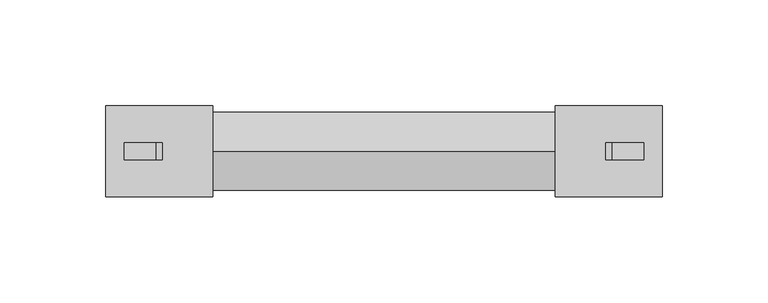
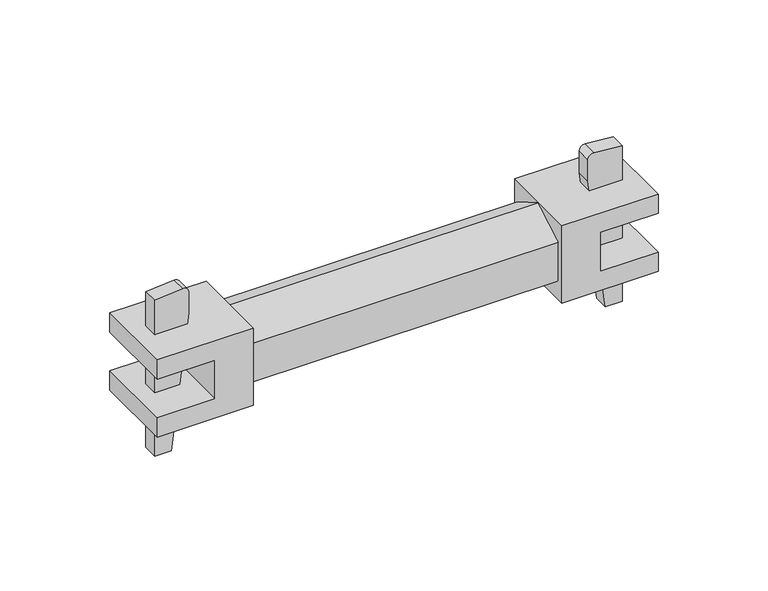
"""IFC4 building model written with IfcOpenShell, lengths in millimetres: proxy geometry, AK_アルバトロスＡＫ布材L=300_軽 : AK_アルバトロスＡＫ布材L=300_軽."""

from ifc_helpers import new_model, si_unit, point, frame, frame_2d, origin, place, context, project, spatial, polyline, circle_curve, trimmed, segment, composite_curve, outline, extrude, source, transform, mapped, element, save


def generic_models_185ff827(model_context):
    return source(origin(), model_context, "Body", "SweptSolid", [
        extrude(outline(polyline([(-10.75, 18.5592), (-21.5, 18.5592), (-21.5, 69.0), (21.5, 69.0), (21.5, 18.5592), (10.75, 18.5592), (10.75, 48.8), (-10.75, 48.8), (-10.75, 18.5592)])), frame((0.0, -21.5, 0.0), z_axis=(0.0, 1.0, 0.0), x_axis=(0.0, 0.0, 1.0)), (0.0, 0.0, 1.0), 43.0),
        extrude(outline(composite_curve([segment(trimmed(circle_curve(frame_2d((39.0692, 42.3)), 3.0), [point((39.0692, 45.3))], [point((42.0590201, 42.0530676))], False, "CARTESIAN"), True, "CONTINUOUS"), segment(polyline([(42.0590201, 42.0530676), (40.7682926, 27.3), (-45.68165, 27.3), (-45.68165, 36.0388248), (27.3200065, 45.3), (39.0692, 45.3)]), True, "CONTINUOUS")], self_intersect=False)), frame((0.0, -4.0, 0.0), z_axis=(0.0, 1.0, 0.0), x_axis=(0.0, 0.0, 1.0)), (0.0, 0.0, 1.0), 8.0),
        extrude(outline(polyline([(-10.75, 281.4408), (-10.75, 251.2), (10.75, 251.2), (10.75, 281.4408), (21.5, 281.4408), (21.5, 231.0), (-21.5, 231.0), (-21.5, 281.4408), (-10.75, 281.4408)])), frame((0.0, -21.5, 0.0), z_axis=(0.0, 1.0, 0.0), x_axis=(0.0, 0.0, 1.0)), (0.0, 0.0, 1.0), 43.0),
        extrude(outline(composite_curve([segment(polyline([(39.0692, 254.7), (27.3200065, 254.7), (-45.68165, 263.9611752), (-45.68165, 272.7), (40.7682926, 272.7), (42.0590201, 257.9469324)]), True, "CONTINUOUS"), segment(trimmed(circle_curve(frame_2d((39.0692, 257.7)), 3.0), [point((42.0590201, 257.9469324))], [point((39.0692, 254.7))], False, "CARTESIAN"), True, "CONTINUOUS")], self_intersect=False)), frame((0.0, -4.0, 0.0), z_axis=(0.0, 1.0, 0.0), x_axis=(0.0, 0.0, 1.0)), (0.0, 0.0, 1.0), 8.0),
        extrude(outline(polyline([(-18.4896424, 10.675), (0.0, 21.35), (18.4896424, 10.675), (18.4896424, -10.675), (0.0, -21.35), (-18.4896424, -10.675), (-18.4896424, 10.675)])), frame((69.0, 0.0, 0.0), z_axis=(1.0, 0.0, 0.0), x_axis=(0.0, 1.0, 0.0)), (0.0, 0.0, 1.0), 162.0),
    ])


if __name__ == "__main__":
    model = new_model("IFC4")
    model_context = context("Model", 3, world=origin())
    ifc_project = project(units=[si_unit("LENGTHUNIT", "METRE", prefix="MILLI")], contexts=[model_context])
    site = spatial("IfcSite", under=ifc_project)
    building = spatial("IfcBuilding", under=site)
    placement = place(None, origin())
    generic_models_shape = generic_models_185ff827(model_context)
    element("IfcBuildingElementProxy", 1, Name="AK_アルバトロスＡＫ布材L=300_軽 : AK_アルバトロスＡＫ布材L=300_軽", ObjectType="AK_アルバトロスＡＫ布材L=300_軽 : AK_アルバトロスＡＫ布材L=300_軽", at=placement, inside=building, context=model_context, shape_type="MappedRepresentation", body=[
        mapped(generic_models_shape, transform((0.0, 0.0, 0.0), x_axis=(1.0, 0.0, 0.0), y_axis=(0.0, 1.0, 0.0), z_axis=(0.0, 0.0, 1.0))),
    ])
    save(model, "model.ifc")
